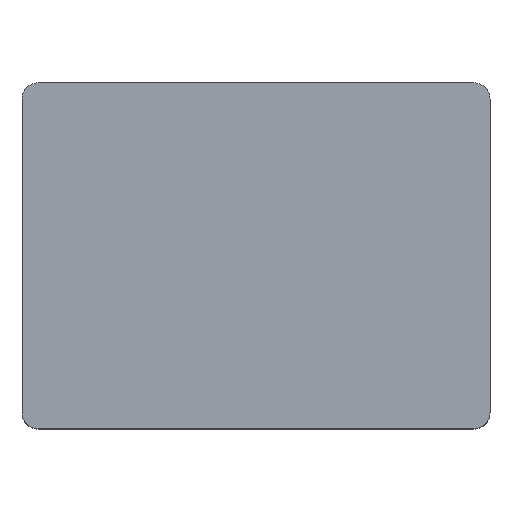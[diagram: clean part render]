
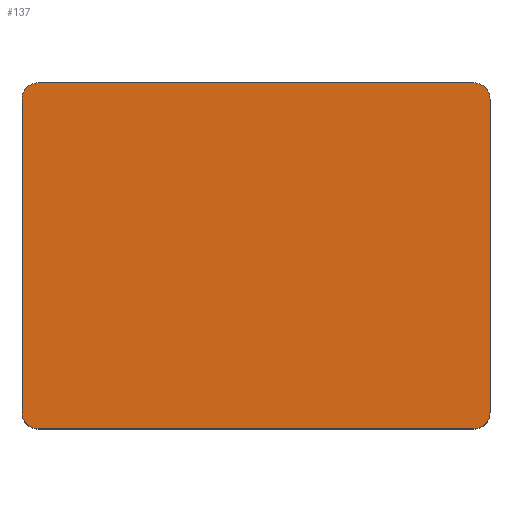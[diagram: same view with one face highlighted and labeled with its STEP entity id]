
A CAD part, top view. The second image highlights one B-rep face of the part: STEP entity #137.
In plain terms, the highlighted planar face has unit normal (0, 0, 1).
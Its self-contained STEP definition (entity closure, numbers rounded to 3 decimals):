
#21 = EDGE_CURVE('',#22,#24,#26,.T.);
#22 = VERTEX_POINT('',#23);
#23 = CARTESIAN_POINT('',(-0.575,-0.385,0.275));
#24 = VERTEX_POINT('',#25);
#25 = CARTESIAN_POINT('',(-0.575,0.385,0.275));
#26 = SURFACE_CURVE('',#27,(#31,#43),.PCURVE_S1.);
#27 = LINE('',#28,#29);
#28 = CARTESIAN_POINT('',(-0.575,-0.425,0.275));
#29 = VECTOR('',#30,1.);
#30 = DIRECTION('',(0.,1.,0.));
#31 = PCURVE('',#32,#37);
#32 = PLANE('',#33);
#33 = AXIS2_PLACEMENT_3D('',#34,#35,#36);
#34 = CARTESIAN_POINT('',(-0.575,-0.425,-0.275));
#35 = DIRECTION('',(1.,0.,0.));
#36 = DIRECTION('',(0.,0.,1.));
#37 = DEFINITIONAL_REPRESENTATION('',(#38),#42);
#38 = LINE('',#39,#40);
#39 = CARTESIAN_POINT('',(0.55,0.));
#40 = VECTOR('',#41,1.);
#41 = DIRECTION('',(0.,-1.));
#42 = ( GEOMETRIC_REPRESENTATION_CONTEXT(2) 
PARAMETRIC_REPRESENTATION_CONTEXT() REPRESENTATION_CONTEXT('2D SPACE',''
  ) );
#43 = PCURVE('',#44,#49);
#44 = PLANE('',#45);
#45 = AXIS2_PLACEMENT_3D('',#46,#47,#48);
#46 = CARTESIAN_POINT('',(-0.575,-0.425,0.275));
#47 = DIRECTION('',(0.,0.,1.));
#48 = DIRECTION('',(1.,0.,0.));
#49 = DEFINITIONAL_REPRESENTATION('',(#50),#54);
#50 = LINE('',#51,#52);
#51 = CARTESIAN_POINT('',(0.,0.));
#52 = VECTOR('',#53,1.);
#53 = DIRECTION('',(0.,1.));
#54 = ( GEOMETRIC_REPRESENTATION_CONTEXT(2) 
PARAMETRIC_REPRESENTATION_CONTEXT() REPRESENTATION_CONTEXT('2D SPACE',''
  ) );
#72 = CYLINDRICAL_SURFACE('',#73,0.04);
#73 = AXIS2_PLACEMENT_3D('',#74,#75,#76);
#74 = CARTESIAN_POINT('',(-0.535,-0.385,-0.275));
#75 = DIRECTION('',(0.,0.,1.));
#76 = DIRECTION('',(-1.,-0.,0.));
#126 = CYLINDRICAL_SURFACE('',#127,0.04);
#127 = AXIS2_PLACEMENT_3D('',#128,#129,#130);
#128 = CARTESIAN_POINT('',(-0.535,0.385,-0.275));
#129 = DIRECTION('',(0.,0.,1.));
#130 = DIRECTION('',(-1.,-0.,0.));
#137 = ADVANCED_FACE('',(#138),#44,.T.);
#138 = FACE_BOUND('',#139,.T.);
#139 = EDGE_LOOP('',(#140,#141,#165,#193,#226,#254,#283,#311));
#140 = ORIENTED_EDGE('',*,*,#21,.F.);
#141 = ORIENTED_EDGE('',*,*,#142,.T.);
#142 = EDGE_CURVE('',#22,#143,#145,.T.);
#143 = VERTEX_POINT('',#144);
#144 = CARTESIAN_POINT('',(-0.535,-0.425,0.275));
#145 = SURFACE_CURVE('',#146,(#151,#158),.PCURVE_S1.);
#146 = CIRCLE('',#147,0.04);
#147 = AXIS2_PLACEMENT_3D('',#148,#149,#150);
#148 = CARTESIAN_POINT('',(-0.535,-0.385,0.275));
#149 = DIRECTION('',(0.,0.,1.));
#150 = DIRECTION('',(0.,-1.,0.));
#151 = PCURVE('',#44,#152);
#152 = DEFINITIONAL_REPRESENTATION('',(#153),#157);
#153 = CIRCLE('',#154,0.04);
#154 = AXIS2_PLACEMENT_2D('',#155,#156);
#155 = CARTESIAN_POINT('',(0.04,0.04));
#156 = DIRECTION('',(0.,-1.));
#157 = ( GEOMETRIC_REPRESENTATION_CONTEXT(2) 
PARAMETRIC_REPRESENTATION_CONTEXT() REPRESENTATION_CONTEXT('2D SPACE',''
  ) );
#158 = PCURVE('',#72,#159);
#159 = DEFINITIONAL_REPRESENTATION('',(#160),#164);
#160 = LINE('',#161,#162);
#161 = CARTESIAN_POINT('',(-4.712,0.55));
#162 = VECTOR('',#163,1.);
#163 = DIRECTION('',(1.,0.));
#164 = ( GEOMETRIC_REPRESENTATION_CONTEXT(2) 
PARAMETRIC_REPRESENTATION_CONTEXT() REPRESENTATION_CONTEXT('2D SPACE',''
  ) );
#165 = ORIENTED_EDGE('',*,*,#166,.T.);
#166 = EDGE_CURVE('',#143,#167,#169,.T.);
#167 = VERTEX_POINT('',#168);
#168 = CARTESIAN_POINT('',(0.535,-0.425,0.275));
#169 = SURFACE_CURVE('',#170,(#174,#181),.PCURVE_S1.);
#170 = LINE('',#171,#172);
#171 = CARTESIAN_POINT('',(-0.575,-0.425,0.275));
#172 = VECTOR('',#173,1.);
#173 = DIRECTION('',(1.,0.,0.));
#174 = PCURVE('',#44,#175);
#175 = DEFINITIONAL_REPRESENTATION('',(#176),#180);
#176 = LINE('',#177,#178);
#177 = CARTESIAN_POINT('',(0.,0.));
#178 = VECTOR('',#179,1.);
#179 = DIRECTION('',(1.,0.));
#180 = ( GEOMETRIC_REPRESENTATION_CONTEXT(2) 
PARAMETRIC_REPRESENTATION_CONTEXT() REPRESENTATION_CONTEXT('2D SPACE',''
  ) );
#181 = PCURVE('',#182,#187);
#182 = PLANE('',#183);
#183 = AXIS2_PLACEMENT_3D('',#184,#185,#186);
#184 = CARTESIAN_POINT('',(-0.575,-0.425,-0.275));
#185 = DIRECTION('',(0.,1.,0.));
#186 = DIRECTION('',(0.,0.,1.));
#187 = DEFINITIONAL_REPRESENTATION('',(#188),#192);
#188 = LINE('',#189,#190);
#189 = CARTESIAN_POINT('',(0.55,0.));
#190 = VECTOR('',#191,1.);
#191 = DIRECTION('',(0.,1.));
#192 = ( GEOMETRIC_REPRESENTATION_CONTEXT(2) 
PARAMETRIC_REPRESENTATION_CONTEXT() REPRESENTATION_CONTEXT('2D SPACE',''
  ) );
#193 = ORIENTED_EDGE('',*,*,#194,.F.);
#194 = EDGE_CURVE('',#195,#167,#197,.T.);
#195 = VERTEX_POINT('',#196);
#196 = CARTESIAN_POINT('',(0.575,-0.385,0.275));
#197 = SURFACE_CURVE('',#198,(#203,#214),.PCURVE_S1.);
#198 = CIRCLE('',#199,0.04);
#199 = AXIS2_PLACEMENT_3D('',#200,#201,#202);
#200 = CARTESIAN_POINT('',(0.535,-0.385,0.275));
#201 = DIRECTION('',(-0.,-0.,-1.));
#202 = DIRECTION('',(0.,-1.,0.));
#203 = PCURVE('',#44,#204);
#204 = DEFINITIONAL_REPRESENTATION('',(#205),#213);
#205 = ( BOUNDED_CURVE() B_SPLINE_CURVE(2,(#206,#207,#208,#209,#210,#211
,#212),.UNSPECIFIED.,.T.,.F.) B_SPLINE_CURVE_WITH_KNOTS((1,2,2,2,2,1),(
    -2.094,0.,2.094,4.189,6.283,
8.378),.UNSPECIFIED.) CURVE() GEOMETRIC_REPRESENTATION_ITEM() 
RATIONAL_B_SPLINE_CURVE((1.,0.5,1.,0.5,1.,0.5,1.)) REPRESENTATION_ITEM(
  '') );
#206 = CARTESIAN_POINT('',(1.11,0.));
#207 = CARTESIAN_POINT('',(1.041,0.));
#208 = CARTESIAN_POINT('',(1.075,0.06));
#209 = CARTESIAN_POINT('',(1.11,0.12));
#210 = CARTESIAN_POINT('',(1.145,0.06));
#211 = CARTESIAN_POINT('',(1.179,0.));
#212 = CARTESIAN_POINT('',(1.11,0.));
#213 = ( GEOMETRIC_REPRESENTATION_CONTEXT(2) 
PARAMETRIC_REPRESENTATION_CONTEXT() REPRESENTATION_CONTEXT('2D SPACE',''
  ) );
#214 = PCURVE('',#215,#220);
#215 = CYLINDRICAL_SURFACE('',#216,0.04);
#216 = AXIS2_PLACEMENT_3D('',#217,#218,#219);
#217 = CARTESIAN_POINT('',(0.535,-0.385,-0.275));
#218 = DIRECTION('',(0.,0.,1.));
#219 = DIRECTION('',(1.,0.,-0.));
#220 = DEFINITIONAL_REPRESENTATION('',(#221),#225);
#221 = LINE('',#222,#223);
#222 = CARTESIAN_POINT('',(4.712,0.55));
#223 = VECTOR('',#224,1.);
#224 = DIRECTION('',(-1.,0.));
#225 = ( GEOMETRIC_REPRESENTATION_CONTEXT(2) 
PARAMETRIC_REPRESENTATION_CONTEXT() REPRESENTATION_CONTEXT('2D SPACE',''
  ) );
#226 = ORIENTED_EDGE('',*,*,#227,.T.);
#227 = EDGE_CURVE('',#195,#228,#230,.T.);
#228 = VERTEX_POINT('',#229);
#229 = CARTESIAN_POINT('',(0.575,0.385,0.275));
#230 = SURFACE_CURVE('',#231,(#235,#242),.PCURVE_S1.);
#231 = LINE('',#232,#233);
#232 = CARTESIAN_POINT('',(0.575,-0.425,0.275));
#233 = VECTOR('',#234,1.);
#234 = DIRECTION('',(0.,1.,0.));
#235 = PCURVE('',#44,#236);
#236 = DEFINITIONAL_REPRESENTATION('',(#237),#241);
#237 = LINE('',#238,#239);
#238 = CARTESIAN_POINT('',(1.15,0.));
#239 = VECTOR('',#240,1.);
#240 = DIRECTION('',(0.,1.));
#241 = ( GEOMETRIC_REPRESENTATION_CONTEXT(2) 
PARAMETRIC_REPRESENTATION_CONTEXT() REPRESENTATION_CONTEXT('2D SPACE',''
  ) );
#242 = PCURVE('',#243,#248);
#243 = PLANE('',#244);
#244 = AXIS2_PLACEMENT_3D('',#245,#246,#247);
#245 = CARTESIAN_POINT('',(0.575,-0.425,-0.275));
#246 = DIRECTION('',(1.,0.,0.));
#247 = DIRECTION('',(0.,0.,1.));
#248 = DEFINITIONAL_REPRESENTATION('',(#249),#253);
#249 = LINE('',#250,#251);
#250 = CARTESIAN_POINT('',(0.55,0.));
#251 = VECTOR('',#252,1.);
#252 = DIRECTION('',(0.,-1.));
#253 = ( GEOMETRIC_REPRESENTATION_CONTEXT(2) 
PARAMETRIC_REPRESENTATION_CONTEXT() REPRESENTATION_CONTEXT('2D SPACE',''
  ) );
#254 = ORIENTED_EDGE('',*,*,#255,.T.);
#255 = EDGE_CURVE('',#228,#256,#258,.T.);
#256 = VERTEX_POINT('',#257);
#257 = CARTESIAN_POINT('',(0.535,0.425,0.275));
#258 = SURFACE_CURVE('',#259,(#264,#271),.PCURVE_S1.);
#259 = CIRCLE('',#260,0.04);
#260 = AXIS2_PLACEMENT_3D('',#261,#262,#263);
#261 = CARTESIAN_POINT('',(0.535,0.385,0.275));
#262 = DIRECTION('',(0.,0.,1.));
#263 = DIRECTION('',(0.,-1.,0.));
#264 = PCURVE('',#44,#265);
#265 = DEFINITIONAL_REPRESENTATION('',(#266),#270);
#266 = CIRCLE('',#267,0.04);
#267 = AXIS2_PLACEMENT_2D('',#268,#269);
#268 = CARTESIAN_POINT('',(1.11,0.81));
#269 = DIRECTION('',(0.,-1.));
#270 = ( GEOMETRIC_REPRESENTATION_CONTEXT(2) 
PARAMETRIC_REPRESENTATION_CONTEXT() REPRESENTATION_CONTEXT('2D SPACE',''
  ) );
#271 = PCURVE('',#272,#277);
#272 = CYLINDRICAL_SURFACE('',#273,0.04);
#273 = AXIS2_PLACEMENT_3D('',#274,#275,#276);
#274 = CARTESIAN_POINT('',(0.535,0.385,-0.275));
#275 = DIRECTION('',(0.,0.,1.));
#276 = DIRECTION('',(1.,0.,-0.));
#277 = DEFINITIONAL_REPRESENTATION('',(#278),#282);
#278 = LINE('',#279,#280);
#279 = CARTESIAN_POINT('',(-1.571,0.55));
#280 = VECTOR('',#281,1.);
#281 = DIRECTION('',(1.,0.));
#282 = ( GEOMETRIC_REPRESENTATION_CONTEXT(2) 
PARAMETRIC_REPRESENTATION_CONTEXT() REPRESENTATION_CONTEXT('2D SPACE',''
  ) );
#283 = ORIENTED_EDGE('',*,*,#284,.F.);
#284 = EDGE_CURVE('',#285,#256,#287,.T.);
#285 = VERTEX_POINT('',#286);
#286 = CARTESIAN_POINT('',(-0.535,0.425,0.275));
#287 = SURFACE_CURVE('',#288,(#292,#299),.PCURVE_S1.);
#288 = LINE('',#289,#290);
#289 = CARTESIAN_POINT('',(-0.575,0.425,0.275));
#290 = VECTOR('',#291,1.);
#291 = DIRECTION('',(1.,0.,0.));
#292 = PCURVE('',#44,#293);
#293 = DEFINITIONAL_REPRESENTATION('',(#294),#298);
#294 = LINE('',#295,#296);
#295 = CARTESIAN_POINT('',(0.,0.85));
#296 = VECTOR('',#297,1.);
#297 = DIRECTION('',(1.,0.));
#298 = ( GEOMETRIC_REPRESENTATION_CONTEXT(2) 
PARAMETRIC_REPRESENTATION_CONTEXT() REPRESENTATION_CONTEXT('2D SPACE',''
  ) );
#299 = PCURVE('',#300,#305);
#300 = PLANE('',#301);
#301 = AXIS2_PLACEMENT_3D('',#302,#303,#304);
#302 = CARTESIAN_POINT('',(-0.575,0.425,-0.275));
#303 = DIRECTION('',(0.,1.,0.));
#304 = DIRECTION('',(0.,0.,1.));
#305 = DEFINITIONAL_REPRESENTATION('',(#306),#310);
#306 = LINE('',#307,#308);
#307 = CARTESIAN_POINT('',(0.55,0.));
#308 = VECTOR('',#309,1.);
#309 = DIRECTION('',(0.,1.));
#310 = ( GEOMETRIC_REPRESENTATION_CONTEXT(2) 
PARAMETRIC_REPRESENTATION_CONTEXT() REPRESENTATION_CONTEXT('2D SPACE',''
  ) );
#311 = ORIENTED_EDGE('',*,*,#312,.F.);
#312 = EDGE_CURVE('',#24,#285,#313,.T.);
#313 = SURFACE_CURVE('',#314,(#319,#330),.PCURVE_S1.);
#314 = CIRCLE('',#315,0.04);
#315 = AXIS2_PLACEMENT_3D('',#316,#317,#318);
#316 = CARTESIAN_POINT('',(-0.535,0.385,0.275));
#317 = DIRECTION('',(-0.,-0.,-1.));
#318 = DIRECTION('',(0.,-1.,0.));
#319 = PCURVE('',#44,#320);
#320 = DEFINITIONAL_REPRESENTATION('',(#321),#329);
#321 = ( BOUNDED_CURVE() B_SPLINE_CURVE(2,(#322,#323,#324,#325,#326,#327
,#328),.UNSPECIFIED.,.T.,.F.) B_SPLINE_CURVE_WITH_KNOTS((1,2,2,2,2,1),(
    -2.094,0.,2.094,4.189,6.283,
8.378),.UNSPECIFIED.) CURVE() GEOMETRIC_REPRESENTATION_ITEM() 
RATIONAL_B_SPLINE_CURVE((1.,0.5,1.,0.5,1.,0.5,1.)) REPRESENTATION_ITEM(
  '') );
#322 = CARTESIAN_POINT('',(0.04,0.77));
#323 = CARTESIAN_POINT('',(-0.029,0.77));
#324 = CARTESIAN_POINT('',(0.005,0.83));
#325 = CARTESIAN_POINT('',(0.04,0.89));
#326 = CARTESIAN_POINT('',(0.075,0.83));
#327 = CARTESIAN_POINT('',(0.109,0.77));
#328 = CARTESIAN_POINT('',(0.04,0.77));
#329 = ( GEOMETRIC_REPRESENTATION_CONTEXT(2) 
PARAMETRIC_REPRESENTATION_CONTEXT() REPRESENTATION_CONTEXT('2D SPACE',''
  ) );
#330 = PCURVE('',#126,#331);
#331 = DEFINITIONAL_REPRESENTATION('',(#332),#336);
#332 = LINE('',#333,#334);
#333 = CARTESIAN_POINT('',(1.571,0.55));
#334 = VECTOR('',#335,1.);
#335 = DIRECTION('',(-1.,0.));
#336 = ( GEOMETRIC_REPRESENTATION_CONTEXT(2) 
PARAMETRIC_REPRESENTATION_CONTEXT() REPRESENTATION_CONTEXT('2D SPACE',''
  ) );
